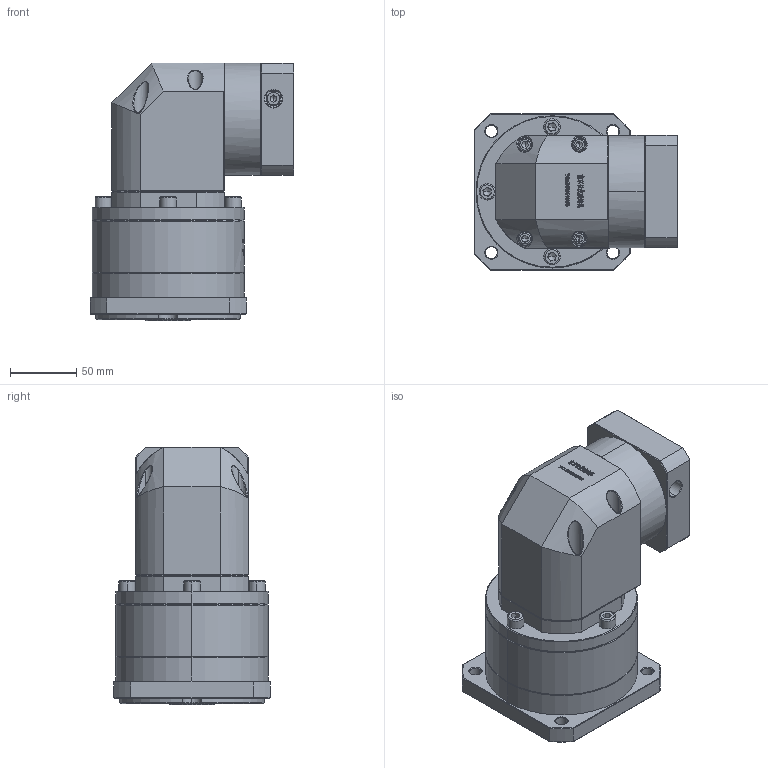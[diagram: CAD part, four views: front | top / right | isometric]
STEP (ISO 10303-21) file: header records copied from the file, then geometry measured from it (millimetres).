
FILE_DESCRIPTION (( 'STEP AP214' ), '1' );
FILE_NAME ('ZFR120A-K25-L2-14-73-69.5X69.5-M6.step', '2023-03-08T05:50:48', ( '' ), ( '' ), 'SwSTEP 2.0', 'SolidWorks 2016', '' );
FILE_SCHEMA (( 'AUTOMOTIVE_DESIGN' ));
Length unit declared in the file: millimetre
Products named in the file (1): ZFR120A-K25-L2-14-73-69.5X69.5-M6
Bounding box: 154.1 x 118 x 195 mm (x, y, z)
Volume: 1808184.5 mm3; surface area: 168378.3 mm2
Topology: 6 solids, 6 shells, 2942 faces, 7802 edges, 5006 vertices
Faces by surface type: plane 1571, bspline 616, cylinder 420, cone 321, torus 14
Entity records: 157915 total; most frequent: CARTESIAN_POINT 58329, ORIENTED_EDGE 15516, DIRECTION 11445, EDGE_CURVE 7758, VERTEX_POINT 5006, LINE 4875, VECTOR 4875, AXIS2_PLACEMENT_3D 3285
